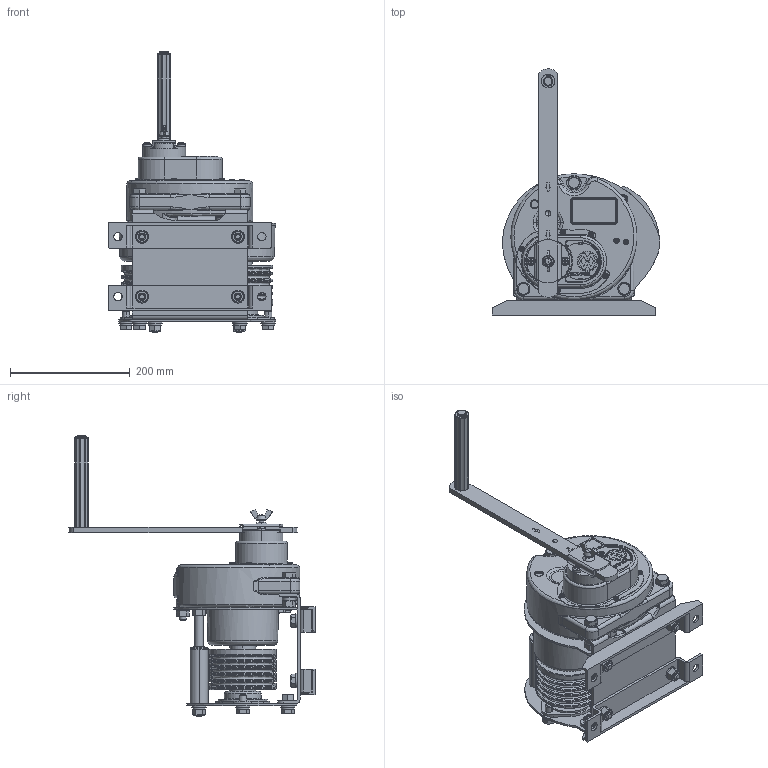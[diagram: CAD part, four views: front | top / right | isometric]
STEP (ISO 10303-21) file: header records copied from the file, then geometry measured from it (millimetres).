
FILE_DESCRIPTION( (''), '2;1');
FILE_NAME ('ME-10-SI-B.stp','2023-12-28T17:16:43',(''),(''),'spGate 19.8.2 (****-****-****-****)','','');
FILE_SCHEMA (('AUTOMOTIVE_DESIGN'));
Length unit declared in the file: millimetre
Products named in the file (5): Assembly; ME-10-SI-B-prt0; ME-10-SI-B-prt1; ME-10-SI-B-prt2; ME-10-SI-B-prt3
Assembly tree (4 placements, depth 2):
  Assembly
    ME-10-SI-B-prt0
    ME-10-SI-B-prt1
    ME-10-SI-B-prt2
    ME-10-SI-B-prt3
Bounding box: 279 x 410.43 x 468.5 mm (x, y, z)
Volume: 6812267.9 mm3; surface area: 755650.2 mm2
Topology: 4 solids, 4 shells, 2619 faces, 6708 edges, 4251 vertices
Faces by surface type: plane 1333, cylinder 851, bspline 413, sphere 22
Entity records: 140025 total; most frequent: CARTESIAN_POINT 25018, ORIENTED_EDGE 13368, DIRECTION 12401, COLOUR_RGB 9307, PRESENTATION_STYLE_ASSIGNMENT 9307, STYLED_ITEM 9307, EDGE_CURVE 6684, DRAUGHTING_PRE_DEFINED_CURVE_FONT 6684
